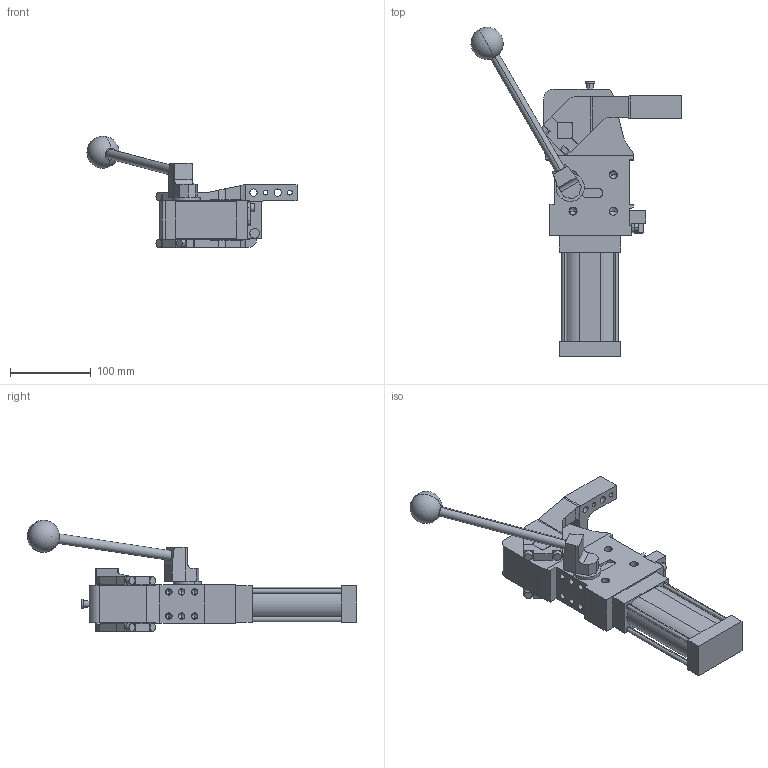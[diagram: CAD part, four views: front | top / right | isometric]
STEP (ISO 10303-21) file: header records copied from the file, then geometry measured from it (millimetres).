
FILE_DESCRIPTION (( 'STEP AP214' ), '1' );
FILE_NAME ('cplm50lav1ssi1g_16.STEP', '2023-01-26T13:14:52', ( '' ), ( '' ), 'SwSTEP 2.0', 'SolidWorks 2022', '' );
FILE_SCHEMA (( 'AUTOMOTIVE_DESIGN' ));
Length unit declared in the file: millimetre
Products named in the file (5): cplm50lav1ssi1g_16; comando_manuale_cplm_50; meccanica_cplm_50; leva_dx_offset_15_cpl50; blocchetto_VEP_0
Assembly tree (4 placements, depth 2):
  cplm50lav1ssi1g_16
    meccanica_cplm_50
    blocchetto_VEP_0
    leva_dx_offset_15_cpl50
    comando_manuale_cplm_50
Bounding box: 260.57 x 408.56 x 138.5 mm (x, y, z)
Volume: 1469960 mm3; surface area: 181399.7 mm2
Topology: 4 solids, 4 shells, 431 faces, 1108 edges, 691 vertices
Faces by surface type: plane 212, cylinder 167, cone 50, sphere 2
Entity records: 14371 total; most frequent: DIRECTION 2277, CARTESIAN_POINT 2271, ORIENTED_EDGE 2114, EDGE_CURVE 1057, AXIS2_PLACEMENT_3D 792, VECTOR 693, LINE 693, VERTEX_POINT 688
